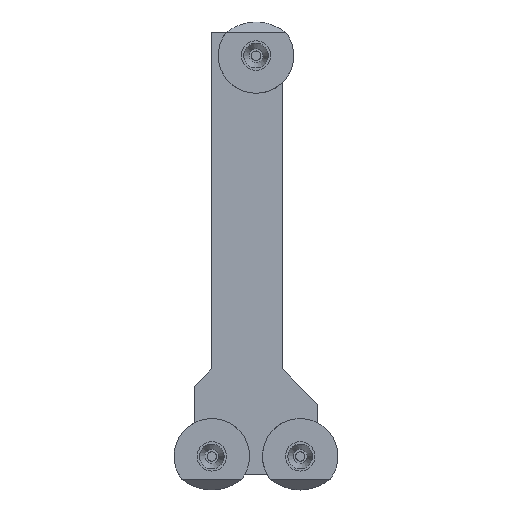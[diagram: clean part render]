
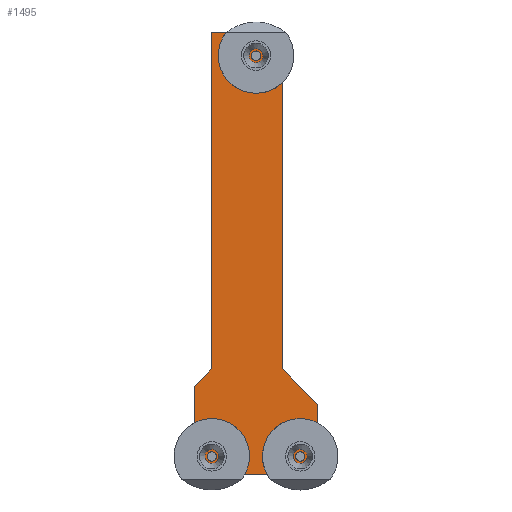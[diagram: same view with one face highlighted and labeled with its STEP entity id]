
A CAD part, top view. The second image highlights one B-rep face of the part: STEP entity #1495.
In plain terms, the highlighted planar face has unit normal (0, 0, 1).
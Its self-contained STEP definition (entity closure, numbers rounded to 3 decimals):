
#53=FACE_BOUND('',#180,.T.);
#54=FACE_BOUND('',#181,.T.);
#55=FACE_BOUND('',#182,.T.);
#63=CIRCLE('',#1627,0.8);
#64=CIRCLE('',#1628,0.8);
#65=CIRCLE('',#1629,0.8);
#66=CIRCLE('',#1630,0.8);
#67=CIRCLE('',#1631,0.8);
#68=CIRCLE('',#1632,0.8);
#101=FACE_OUTER_BOUND('',#179,.T.);
#179=EDGE_LOOP('',(#997,#998,#999,#1000,#1001,#1002,#1003,#1004));
#180=EDGE_LOOP('',(#1005,#1006));
#181=EDGE_LOOP('',(#1007,#1008));
#182=EDGE_LOOP('',(#1009,#1010));
#265=LINE('',#2175,#444);
#269=LINE('',#2183,#448);
#272=LINE('',#2189,#451);
#273=LINE('',#2191,#452);
#274=LINE('',#2193,#453);
#275=LINE('',#2195,#454);
#276=LINE('',#2197,#455);
#277=LINE('',#2198,#456);
#444=VECTOR('',#1751,10.);
#448=VECTOR('',#1757,10.);
#451=VECTOR('',#1762,10.);
#452=VECTOR('',#1763,10.);
#453=VECTOR('',#1764,10.);
#454=VECTOR('',#1765,10.);
#455=VECTOR('',#1766,10.);
#456=VECTOR('',#1767,10.);
#623=VERTEX_POINT('',#2173);
#624=VERTEX_POINT('',#2174);
#627=VERTEX_POINT('',#2182);
#629=VERTEX_POINT('',#2188);
#630=VERTEX_POINT('',#2190);
#631=VERTEX_POINT('',#2192);
#632=VERTEX_POINT('',#2194);
#633=VERTEX_POINT('',#2196);
#634=VERTEX_POINT('',#2199);
#635=VERTEX_POINT('',#2200);
#636=VERTEX_POINT('',#2203);
#637=VERTEX_POINT('',#2204);
#638=VERTEX_POINT('',#2207);
#639=VERTEX_POINT('',#2208);
#770=EDGE_CURVE('',#623,#624,#265,.T.);
#774=EDGE_CURVE('',#624,#627,#269,.T.);
#777=EDGE_CURVE('',#623,#629,#272,.T.);
#778=EDGE_CURVE('',#629,#630,#273,.T.);
#779=EDGE_CURVE('',#630,#631,#274,.T.);
#780=EDGE_CURVE('',#632,#631,#275,.T.);
#781=EDGE_CURVE('',#633,#632,#276,.T.);
#782=EDGE_CURVE('',#627,#633,#277,.T.);
#783=EDGE_CURVE('',#634,#635,#63,.T.);
#784=EDGE_CURVE('',#635,#634,#64,.T.);
#785=EDGE_CURVE('',#636,#637,#65,.T.);
#786=EDGE_CURVE('',#637,#636,#66,.T.);
#787=EDGE_CURVE('',#638,#639,#67,.T.);
#788=EDGE_CURVE('',#639,#638,#68,.T.);
#997=ORIENTED_EDGE('',*,*,#770,.F.);
#998=ORIENTED_EDGE('',*,*,#777,.T.);
#999=ORIENTED_EDGE('',*,*,#778,.T.);
#1000=ORIENTED_EDGE('',*,*,#779,.T.);
#1001=ORIENTED_EDGE('',*,*,#780,.F.);
#1002=ORIENTED_EDGE('',*,*,#781,.F.);
#1003=ORIENTED_EDGE('',*,*,#782,.F.);
#1004=ORIENTED_EDGE('',*,*,#774,.F.);
#1005=ORIENTED_EDGE('',*,*,#783,.T.);
#1006=ORIENTED_EDGE('',*,*,#784,.T.);
#1007=ORIENTED_EDGE('',*,*,#785,.T.);
#1008=ORIENTED_EDGE('',*,*,#786,.T.);
#1009=ORIENTED_EDGE('',*,*,#787,.T.);
#1010=ORIENTED_EDGE('',*,*,#788,.T.);
#1429=PLANE('',#1626);
#1495=ADVANCED_FACE('',(#101,#53,#54,#55),#1429,.T.);
#1626=AXIS2_PLACEMENT_3D('',#2187,#1760,#1761);
#1627=AXIS2_PLACEMENT_3D('',#2201,#1768,#1769);
#1628=AXIS2_PLACEMENT_3D('',#2202,#1770,#1771);
#1629=AXIS2_PLACEMENT_3D('',#2205,#1772,#1773);
#1630=AXIS2_PLACEMENT_3D('',#2206,#1774,#1775);
#1631=AXIS2_PLACEMENT_3D('',#2209,#1776,#1777);
#1632=AXIS2_PLACEMENT_3D('',#2210,#1778,#1779);
#1751=DIRECTION('',(0.707,-0.707,0.));
#1757=DIRECTION('',(0.,-1.,0.));
#1760=DIRECTION('center_axis',(0.,0.,
1.));
#1761=DIRECTION('ref_axis',(0.,-1.,0.));
#1762=DIRECTION('',(0.,1.,0.));
#1763=DIRECTION('',(-1.,0.,0.));
#1764=DIRECTION('',(0.,-1.,0.));
#1765=DIRECTION('',(0.707,0.707,0.));
#1766=DIRECTION('',(0.,1.,0.));
#1767=DIRECTION('',(-1.,0.,0.));
#1768=DIRECTION('center_axis',(0.,0.,
-1.));
#1769=DIRECTION('ref_axis',(1.,0.,0.));
#1770=DIRECTION('center_axis',(0.,0.,
-1.));
#1771=DIRECTION('ref_axis',(1.,0.,0.));
#1772=DIRECTION('center_axis',(0.,0.,
-1.));
#1773=DIRECTION('ref_axis',(1.,0.,0.));
#1774=DIRECTION('center_axis',(0.,0.,
-1.));
#1775=DIRECTION('ref_axis',(1.,0.,0.));
#1776=DIRECTION('center_axis',(0.,0.,
-1.));
#1777=DIRECTION('ref_axis',(1.,0.,0.));
#1778=DIRECTION('center_axis',(0.,0.,
-1.));
#1779=DIRECTION('ref_axis',(1.,0.,0.));
#2173=CARTESIAN_POINT('',(12.,9.852,1.2));
#2174=CARTESIAN_POINT('',(18.,3.852,1.2));
#2175=CARTESIAN_POINT('',(-5.,26.852,1.2));
#2182=CARTESIAN_POINT('',(18.,-8.,1.2));
#2183=CARTESIAN_POINT('',(18.,0.,1.2));
#2187=CARTESIAN_POINT('Origin',(0.,71.852,
1.2));
#2188=CARTESIAN_POINT('',(12.,66.852,1.2));
#2189=CARTESIAN_POINT('',(12.,56.352,1.2));
#2190=CARTESIAN_POINT('',(0.,66.852,1.2));
#2191=CARTESIAN_POINT('',(3.75,66.852,1.2));
#2192=CARTESIAN_POINT('',(0.,9.852,1.2));
#2193=CARTESIAN_POINT('',(0.,56.352,1.2));
#2194=CARTESIAN_POINT('',(-3.,6.852,1.2));
#2195=CARTESIAN_POINT('',(14.75,24.602,1.2));
#2196=CARTESIAN_POINT('',(-3.,-8.,1.2));
#2197=CARTESIAN_POINT('',(-3.,12.02,1.2));
#2198=CARTESIAN_POINT('',(3.75,-8.,1.2));
#2199=CARTESIAN_POINT('',(8.3,63.,1.2));
#2200=CARTESIAN_POINT('',(6.7,63.,1.2));
#2201=CARTESIAN_POINT('Origin',(7.5,63.,1.2));
#2202=CARTESIAN_POINT('Origin',(7.5,63.,1.2));
#2203=CARTESIAN_POINT('',(0.8,-5.,1.2));
#2204=CARTESIAN_POINT('',(-0.8,-5.,1.2));
#2205=CARTESIAN_POINT('Origin',(0.,-5.,1.2));
#2206=CARTESIAN_POINT('Origin',(0.,-5.,1.2));
#2207=CARTESIAN_POINT('',(15.8,-5.,1.2));
#2208=CARTESIAN_POINT('',(14.2,-5.,1.2));
#2209=CARTESIAN_POINT('Origin',(15.,-5.,1.2));
#2210=CARTESIAN_POINT('Origin',(15.,-5.,1.2));
